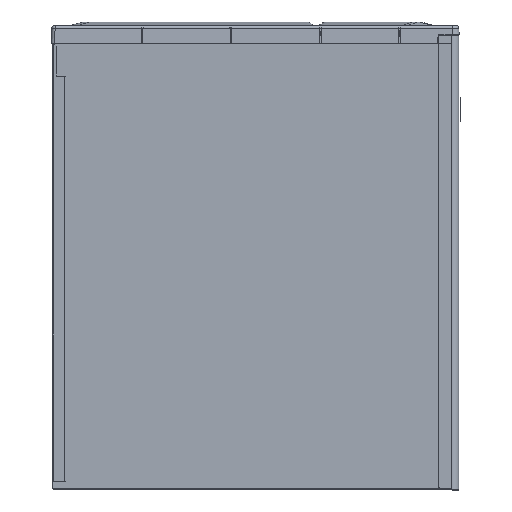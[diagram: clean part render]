
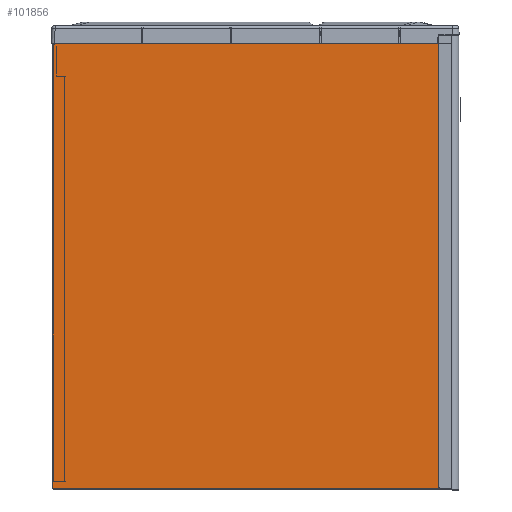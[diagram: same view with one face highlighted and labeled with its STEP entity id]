
A CAD part, left-side view. The second image highlights one B-rep face of the part: STEP entity #101856.
In plain terms, the highlighted planar face has unit normal (-1, 0, 0).
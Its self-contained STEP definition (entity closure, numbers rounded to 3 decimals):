
#9522=ORIENTED_EDGE('',*,*,#38078,.T.);
#9523=ORIENTED_EDGE('',*,*,#38077,.F.);
#9524=ORIENTED_EDGE('',*,*,#38048,.T.);
#9525=ORIENTED_EDGE('',*,*,#38079,.F.);
#9526=ORIENTED_EDGE('',*,*,#38046,.T.);
#9527=ORIENTED_EDGE('',*,*,#38080,.T.);
#9528=ORIENTED_EDGE('',*,*,#38034,.T.);
#9529=ORIENTED_EDGE('',*,*,#38081,.F.);
#9530=ORIENTED_EDGE('',*,*,#38032,.T.);
#38032=EDGE_CURVE('',#52666,#52668,#62655,.T.);
#38034=EDGE_CURVE('',#52671,#52670,#62657,.T.);
#38046=EDGE_CURVE('',#52680,#52682,#62667,.T.);
#38048=EDGE_CURVE('',#52685,#52684,#62669,.T.);
#38077=EDGE_CURVE('',#52685,#52705,#62691,.T.);
#38078=EDGE_CURVE('',#52668,#52705,#62692,.F.);
#38079=EDGE_CURVE('',#52680,#52684,#62693,.T.);
#38080=EDGE_CURVE('',#52682,#52671,#62694,.T.);
#38081=EDGE_CURVE('',#52666,#52670,#62695,.T.);
#52666=VERTEX_POINT('',#144472);
#52668=VERTEX_POINT('',#144476);
#52670=VERTEX_POINT('',#144481);
#52671=VERTEX_POINT('',#144483);
#52680=VERTEX_POINT('',#144503);
#52682=VERTEX_POINT('',#144507);
#52684=VERTEX_POINT('',#144512);
#52685=VERTEX_POINT('',#144514);
#52705=VERTEX_POINT('',#144559);
#62655=LINE('',#144477,#73787);
#62657=LINE('',#144482,#73789);
#62667=LINE('',#144508,#73799);
#62669=LINE('',#144513,#73801);
#62691=LINE('',#144573,#73823);
#62692=LINE('',#144575,#73824);
#62693=LINE('',#144576,#73825);
#62694=LINE('',#144577,#73826);
#62695=LINE('',#144578,#73827);
#73787=VECTOR('',#118659,1000.);
#73789=VECTOR('',#118663,1000.);
#73799=VECTOR('',#118681,1000.);
#73801=VECTOR('',#118685,1000.);
#73823=VECTOR('',#118735,1000.);
#73824=VECTOR('',#118738,1000.);
#73825=VECTOR('',#118739,1000.);
#73826=VECTOR('',#118740,1000.);
#73827=VECTOR('',#118741,1000.);
#84773=EDGE_LOOP('',(#9522,#9523,#9524,#9525,#9526,#9527,#9528,#9529,#9530));
#91640=FACE_BOUND('',#84773,.T.);
#97810=PLANE('',#108710);
#101856=ADVANCED_FACE('',(#91640),#97810,.F.);
#108710=AXIS2_PLACEMENT_3D('',#144574,#118736,#118737);
#118659=DIRECTION('',(0.,0.,1.));
#118663=DIRECTION('',(0.,0.,1.));
#118681=DIRECTION('',(0.,0.,-1.));
#118685=DIRECTION('',(0.,0.,-1.));
#118735=DIRECTION('',(0.,-1.,0.));
#118736=DIRECTION('',(1.,0.,0.));
#118737=DIRECTION('',(0.,0.,-1.));
#118738=DIRECTION('',(0.,-1.,0.));
#118739=DIRECTION('',(0.,0.,1.));
#118740=DIRECTION('',(0.,-1.,0.));
#118741=DIRECTION('',(0.,0.,-1.));
#144472=CARTESIAN_POINT('',(-13.7,-582.398,674.996));
#144476=CARTESIAN_POINT('',(-13.7,-582.398,674.998));
#144477=CARTESIAN_POINT('',(-13.7,-582.398,0.002));
#144481=CARTESIAN_POINT('',(-13.7,-582.398,0.004));
#144482=CARTESIAN_POINT('',(-13.7,-582.398,0.002));
#144483=CARTESIAN_POINT('',(-13.7,-582.398,0.002));
#144503=CARTESIAN_POINT('',(-13.7,22.599,0.004));
#144507=CARTESIAN_POINT('',(-13.7,22.599,0.002));
#144508=CARTESIAN_POINT('',(-13.7,22.599,674.998));
#144512=CARTESIAN_POINT('',(-13.7,22.599,674.996));
#144513=CARTESIAN_POINT('',(-13.7,22.599,674.998));
#144514=CARTESIAN_POINT('',(-13.7,22.599,674.998));
#144559=CARTESIAN_POINT('',(-13.7,-580.9,674.998));
#144573=CARTESIAN_POINT('',(-13.7,22.6,674.998));
#144574=CARTESIAN_POINT('',(-13.7,22.6,0.));
#144575=CARTESIAN_POINT('',(-13.7,-582.4,674.998));
#144576=CARTESIAN_POINT('',(-13.7,22.599,0.004));
#144577=CARTESIAN_POINT('',(-13.7,22.6,0.002));
#144578=CARTESIAN_POINT('',(-13.7,-582.398,674.996));
